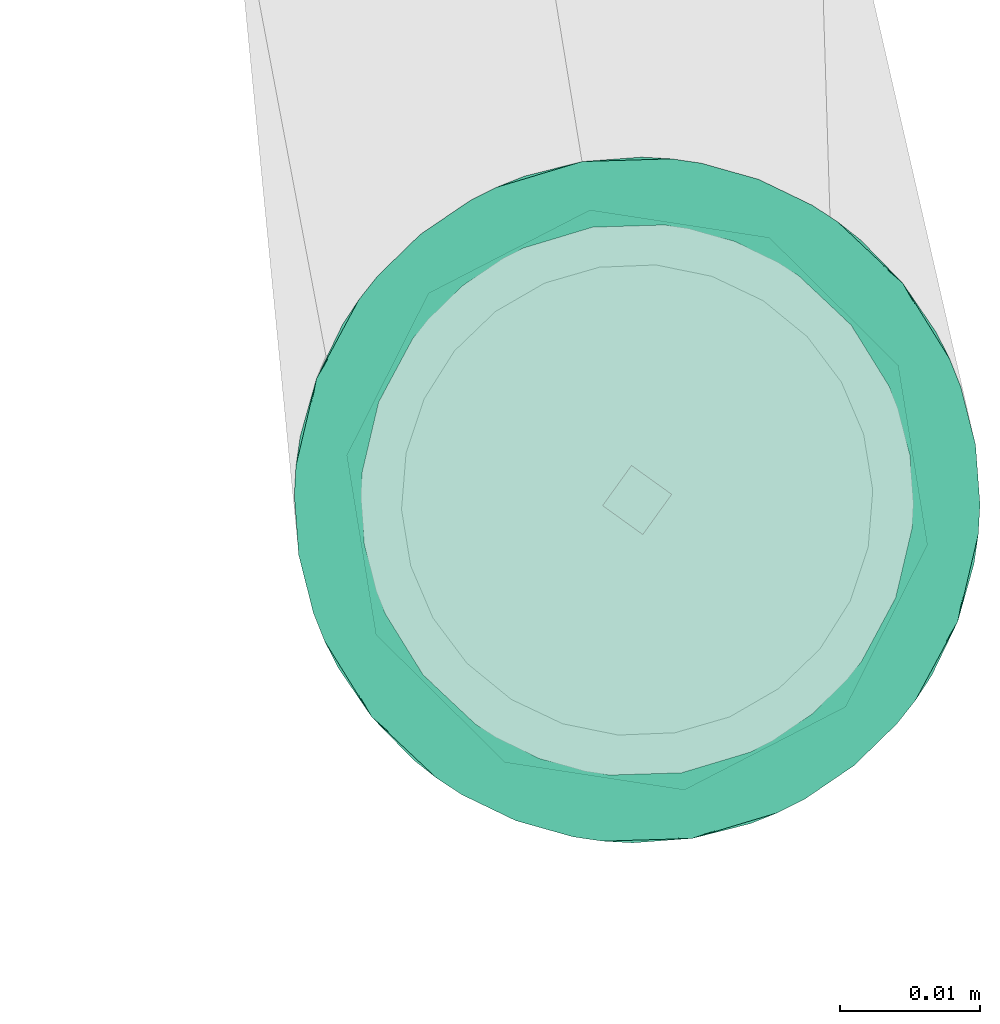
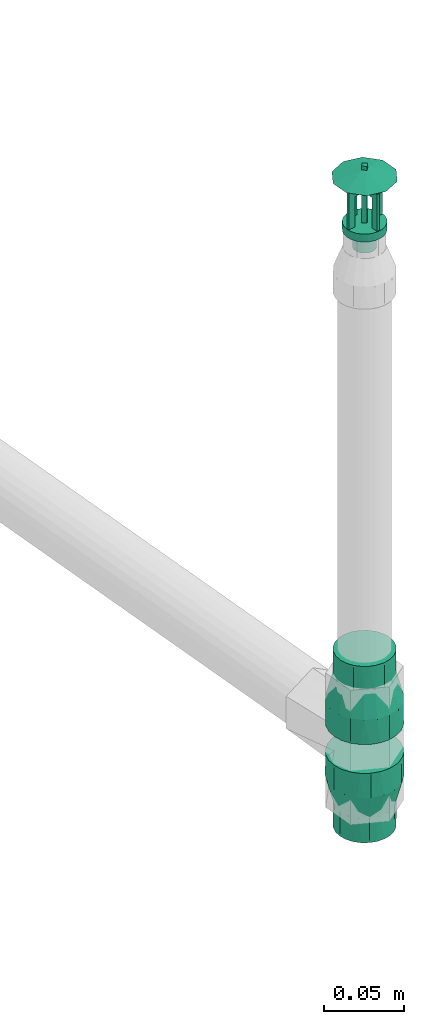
# One storey, part 39 of 56: 2 flow fittings, 1 flow terminal.
"""IFC2X3 building model written with IfcOpenShell, lengths in millimetres."""

from ifc_helpers import new_model, entity, si_unit, converted_unit, derived_unit, direction, frame, origin, origin_with_axes, place, context, subcontext, project, spatial, faceted_brep, source, transform, mapped, material, type_object, element, save


model = new_model("IFC2X3")

# Units and contexts
model_context = context("Model", 3, precision=0.01, world=origin(), true_north=direction((6.12323399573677e-17, 1.0)))
plan_context = context("Plan", 3, precision=1e-05, world=origin_with_axes())
body_context = subcontext(model_context, "Body", "Model", "MODEL_VIEW")
ifc_project = project(units=[converted_unit("PLANEANGLEUNIT", "DEGREE", entity("IfcPositiveLengthMeasure", 0.0174532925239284), si_unit("PLANEANGLEUNIT", "RADIAN"), dimensions=[0, 0, 0, 0, 0, 0, 0]), si_unit("AREAUNIT", "SQUARE_METRE"), si_unit("LENGTHUNIT", "METRE", prefix="MILLI"), si_unit("MASSUNIT", "GRAM", prefix="KILO"), si_unit("POWERUNIT", "WATT"), si_unit("PRESSUREUNIT", "PASCAL", prefix="KILO"), si_unit("FORCEUNIT", "NEWTON", prefix="KILO"), si_unit("ELECTRICVOLTAGEUNIT", "VOLT"), si_unit("ELECTRICCURRENTUNIT", "AMPERE"), si_unit("THERMODYNAMICTEMPERATUREUNIT", "DEGREE_CELSIUS"), si_unit("TIMEUNIT", "SECOND"), si_unit("VOLUMEUNIT", "CUBIC_METRE"), derived_unit("LINEARVELOCITYUNIT", [(si_unit("LENGTHUNIT", "METRE"), 1), (si_unit("TIMEUNIT", "SECOND"), -1)]), derived_unit("VOLUMETRICFLOWRATEUNIT", [(si_unit("VOLUMEUNIT", "CUBIC_METRE"), 1), (si_unit("TIMEUNIT", "SECOND"), -1)]), derived_unit("THERMALTRANSMITTANCEUNIT", [(si_unit("POWERUNIT", "WATT"), 1), (si_unit("THERMODYNAMICTEMPERATUREUNIT", "KELVIN"), -1), (si_unit("AREAUNIT", "SQUARE_METRE"), -1)]), derived_unit("SOUNDPRESSUREUNIT", [(si_unit("PRESSUREUNIT", "PASCAL"), 1)])], contexts=[model_context, plan_context])

# Site, building, storey
site_placement = place(None, frame((-3.09682673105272e-06, 1.93776733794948e-05, 0.0), z_axis=(0.0, 0.0, 1.0), x_axis=(-0.160806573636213, 0.986985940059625, 0.0)))
site = spatial("IfcSite", under=ifc_project, at=site_placement, Name="Default", CompositionType="ELEMENT")
building_placement = place(site_placement, frame((0.0, 0.0, 0.0), z_axis=(0.0, 0.0, 1.0), x_axis=(1.0, -2.77555756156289e-17, 0.0)))
building = spatial("IfcBuilding", under=site, at=building_placement, Name="Bygning (endres i Project Information)", CompositionType="ELEMENT")
storey_placement = place(building_placement, frame((0.0, 0.0, 51360.0000000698), z_axis=(0.0, 0.0, 1.0), x_axis=(1.0, -2.77555756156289e-17, 0.0)))
storey = spatial("IfcBuildingStorey", under=building, at=storey_placement, Name="H01-Nivå D+0,36", CompositionType="ELEMENT", Elevation=51360.0000000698)

# Flow fittings
ifc_material = material(Name="3320.001")
pipe_fitting_type_1 = type_object("IfcPipeFittingType", Name="RS_53_PIF_UN_Reducing-Socket-EN10241_MC_gen:RS_53_PIF_UN_Reducing-Socket-EN10241_MC_gen", PredefinedType="NOTDEFINED", material=ifc_material)
shared_shape_1 = source(origin(), body_context, "Body", "Brep", [
    faceted_brep([(0.0, 0.0, 24.5), (0.0, 6.34106660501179, 23.6651827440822), (0.0, 12.25, 21.2176223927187), (0.0, 17.3241161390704, 17.3241161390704), (0.0, 21.2176223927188, 12.25), (0.0, 23.6651827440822, 6.34106660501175), (0.0, 24.5, 0.0), (0.0, 23.6651827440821, -6.34106660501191), (0.0, 21.2176223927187, -12.2500000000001), (0.0, 17.3241161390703, -17.3241161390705), (0.0, 12.2499999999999, -21.2176223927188), (0.0, 6.34106660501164, -23.6651827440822), (0.0, 0.0, -24.5), (0.0, -6.34106660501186, -23.6651827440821), (0.0, -12.2500000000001, -21.2176223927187), (0.0, -17.3241161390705, -17.3241161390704), (0.0, -21.2176223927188, -12.2499999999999), (0.0, -23.6651827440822, -6.34106660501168), (0.0, -24.5, 0.0), (0.0, -23.6651827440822, 6.34106660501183), (0.0, -21.2176223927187, 12.2500000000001), (0.0, -17.3241161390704, 17.3241161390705), (0.0, -12.25, 21.2176223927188), (0.0, -6.34106660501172, 23.6651827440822), (18.6666666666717, -8.25137606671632, -22.6729794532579), (18.6666666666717, -18.7677686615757, -15.7486780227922), (18.6666666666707, -20.8950763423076, -12.0642027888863), (18.6666666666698, -23.0223840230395, -8.37972755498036), (18.6666666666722, -12.2493529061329, -21.2179959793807), (18.6666666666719, -15.5085607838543, -18.4833370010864), (18.6666666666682, -23.7125607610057, -4.46565710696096), (18.6666666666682, -23.7611920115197, -4.18986377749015), (18.6666666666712, -4.25339922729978, -24.1279629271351), (18.6666666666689, 4.25560674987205, -24.1275736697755), (18.6666666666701, 0.00110376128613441, -24.1277682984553), (18.6666666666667, -24.5, 0.0), (18.6666666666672, 8.25345045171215, -22.6722244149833), (18.6666666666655, 12.2512941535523, -21.2168751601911), (18.6666666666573, 23.0231506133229, -8.37762113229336), (18.6666666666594, 20.8961800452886, -12.062290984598), (18.6666666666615, 18.7692094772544, -15.7469608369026), (18.6666666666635, 15.5102518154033, -18.4819179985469), (18.6666666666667, 24.5, 0.0), (18.6666666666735, 18.7692094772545, 15.7469608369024), (18.666666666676, 20.8961800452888, 12.0622909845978), (18.6666666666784, 23.023150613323, 8.3776211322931), (18.6666666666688, 12.2512941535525, 21.216875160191), (18.6666666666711, 15.5102518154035, 18.4819179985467), (18.6666666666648, 4.25560674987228, 24.1275736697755), (18.6666666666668, 8.25345045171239, 22.6722244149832), (18.6666666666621, -4.25339922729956, 24.1279629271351), (18.6666666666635, 0.00110376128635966, 24.1277682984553), (18.6666666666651, -23.7611920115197, 4.1898637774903), (18.6666666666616, -8.25137606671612, 22.672979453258), (18.666666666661, -12.2493529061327, 21.2179959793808), (18.6666666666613, -15.5085607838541, 18.4833370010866), (18.6666666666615, -18.7677686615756, 15.7486780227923), (18.6666666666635, -23.0223840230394, 8.37972755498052), (18.6666666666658, -23.7125607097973, 4.46565739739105), (18.6666666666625, -20.8950763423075, 12.0642027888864), (37.3333333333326, 19.750000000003, 0.0), (37.3333333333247, 18.5595959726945, -6.75306577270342), (37.3333333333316, 9.87626627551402, -17.1032705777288), (37.3333333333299, 12.5033702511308, -14.8985095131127), (37.3333333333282, 15.1304742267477, -12.6937484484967), (37.3333333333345, 3.43075149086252, -19.4497414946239), (37.333333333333, 6.65350888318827, -18.2765060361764), (37.3333333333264, 16.8450350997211, -9.72340711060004), (37.3333333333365, -3.42859151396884, -19.4501223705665), (37.3333333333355, 0.00107998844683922, -19.4499319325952), (37.3333333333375, -9.87436684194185, -17.1043672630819), (37.333333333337, -6.65147917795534, -18.2772448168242), (37.3333333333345, -19.1544229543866, -3.37756341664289), (37.3333333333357, -18.558845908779, -6.75512683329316), (37.3333333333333, -19.7499999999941, 0.0), (37.3333333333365, -16.8439551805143, -9.72527774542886), (37.3333333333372, -15.1290644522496, -12.6954286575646), (37.3333333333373, -12.5017156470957, -14.8998979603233), (37.3333333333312, -18.5588459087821, 6.755126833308), (37.3333333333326, -19.1544229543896, 3.37756341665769), (37.3333333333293, -15.1290644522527, 12.6954286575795), (37.3333333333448, 18.559595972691, 6.75306577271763), (37.3333333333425, 16.8450350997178, 9.72340711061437), (37.3333333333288, -9.87436684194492, 17.104367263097), (37.3333333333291, -12.5017156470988, 14.8998979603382), (37.3333333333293, -6.65147917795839, 18.2772448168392), (37.3333333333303, -16.8439551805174, 9.72527774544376), (37.333333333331, 0.00107998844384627, 19.4499319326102), (37.3333333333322, 3.43075149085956, 19.4497414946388), (37.3333333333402, 15.1304742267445, 12.6937484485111), (37.333333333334, 6.65350888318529, 18.2765060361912), (37.3333333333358, 9.87626627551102, 17.1032705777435), (37.333333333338, 12.5033702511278, 14.8985095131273), (37.3333333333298, -3.42859151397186, 19.4501223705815), (56.0, 5.11167614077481, -19.0770350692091), (56.0, 9.87500000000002, -17.1040017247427), (56.0, 13.9653589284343, -13.9653589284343), (56.0, 17.1040017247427, -9.87499999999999), (56.0, 19.0770350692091, -5.11167614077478), (56.0, 19.75, 0.0), (56.0, 19.0770350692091, 5.1116761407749), (56.0, 17.1040017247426, 9.8750000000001), (56.0, 13.9653589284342, 13.9653589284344), (56.0, 9.87499999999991, 17.1040017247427), (56.0, 5.11167614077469, 19.0770350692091), (56.0, 0.0, 19.75), (56.0, -5.11167614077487, 19.0770350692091), (56.0, -9.87500000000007, 17.1040017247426), (56.0, -13.9653589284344, 13.9653589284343), (56.0, -17.1040017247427, 9.87499999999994), (56.0, -19.0770350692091, 5.11167614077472), (56.0, -19.75, 0.0), (56.0, -19.0770350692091, -5.11167614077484), (56.0, -17.1040017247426, -9.87500000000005), (56.0, -13.9653589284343, -13.9653589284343), (56.0, -9.87499999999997, -17.1040017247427), (56.0, -5.11167614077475, -19.0770350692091), (56.0, 0.0, -19.75)], [[[0, 1, 2, 3, 4, 5, 6, 7, 8, 9, 10, 11, 12, 13, 14, 15, 16, 17, 18, 19, 20, 21, 22, 23]], [[24, 14, 13]], [[16, 15, 25]], [[16, 25, 26, 27]], [[28, 29, 14]], [[17, 27, 30, 31]], [[31, 18, 17]], [[16, 27, 17]], [[13, 32, 24]], [[25, 15, 29]], [[12, 33, 34, 32]], [[24, 28, 14]], [[14, 29, 15]], [[31, 35, 18]], [[33, 12, 11]], [[36, 10, 37]], [[8, 38, 39, 40]], [[10, 36, 11]], [[8, 7, 38]], [[9, 40, 41]], [[33, 11, 36]], [[8, 40, 9]], [[41, 37, 10]], [[7, 42, 38]], [[7, 6, 42]], [[12, 32, 13]], [[41, 10, 9]], [[42, 6, 5]], [[4, 3, 43]], [[4, 43, 44, 45]], [[46, 47, 2]], [[45, 42, 5]], [[1, 48, 49]], [[43, 3, 47]], [[0, 50, 51, 48]], [[2, 47, 3]], [[50, 0, 23]], [[0, 48, 1]], [[18, 52, 19]], [[53, 22, 54]], [[49, 2, 1]], [[55, 22, 21]], [[35, 52, 18]], [[4, 45, 5]], [[22, 53, 23]], [[21, 56, 55]], [[50, 23, 53]], [[49, 46, 2]], [[20, 56, 21]], [[57, 20, 19]], [[19, 52, 58, 57]], [[55, 54, 22]], [[59, 56, 20, 57]], [[42, 60, 61]], [[41, 62, 37]], [[63, 40, 64]], [[40, 39, 64]], [[33, 36, 65]], [[65, 36, 66]], [[38, 42, 61]], [[64, 39, 67]], [[41, 40, 63]], [[36, 37, 66]], [[62, 41, 63]], [[38, 67, 39]], [[68, 34, 69]], [[68, 32, 34]], [[24, 70, 28]], [[32, 68, 71]], [[72, 35, 31, 30]], [[73, 27, 26]], [[72, 74, 35]], [[26, 75, 73]], [[76, 25, 29]], [[29, 77, 76]], [[70, 24, 71]], [[24, 32, 71]], [[70, 77, 28]], [[76, 75, 25]], [[28, 77, 29]], [[25, 75, 26]], [[73, 30, 27]], [[30, 73, 72]], [[66, 37, 62]], [[69, 34, 33]], [[69, 33, 65]], [[67, 38, 61]], [[78, 58, 79]], [[80, 55, 56]], [[81, 45, 82]], [[78, 59, 57]], [[83, 53, 54]], [[55, 80, 84]], [[79, 58, 52, 35]], [[78, 57, 58]], [[84, 54, 55]], [[85, 50, 53]], [[79, 35, 74]], [[86, 56, 59]], [[84, 83, 54]], [[48, 87, 88]], [[49, 48, 88]], [[59, 78, 86]], [[53, 83, 85]], [[87, 48, 51]], [[81, 60, 42]], [[44, 43, 89]], [[90, 46, 49]], [[47, 46, 91]], [[86, 80, 56]], [[82, 45, 44]], [[49, 88, 90]], [[92, 43, 47]], [[91, 46, 90]], [[51, 50, 93]], [[42, 45, 81]], [[85, 93, 50]], [[44, 89, 82]], [[51, 93, 87]], [[47, 91, 92]], [[89, 43, 92]], [[94, 95, 96, 97, 98, 99, 100, 101, 102, 103, 104, 105, 106, 107, 108, 109, 110, 111, 112, 113, 114, 115, 116, 117]], [[60, 99, 98]], [[97, 96, 64]], [[97, 64, 67, 61]], [[62, 63, 95]], [[61, 60, 98]], [[94, 65, 66]], [[64, 96, 63]], [[117, 68, 69, 65]], [[95, 63, 96]], [[117, 116, 68]], [[77, 70, 115]], [[66, 95, 94]], [[115, 70, 71]], [[113, 112, 73]], [[115, 71, 116]], [[117, 65, 94]], [[97, 61, 98]], [[72, 111, 74]], [[71, 68, 116]], [[113, 76, 114]], [[114, 76, 77]], [[77, 115, 114]], [[113, 73, 75, 76]], [[111, 72, 112]], [[66, 62, 95]], [[72, 73, 112]], [[85, 107, 106]], [[109, 108, 80]], [[109, 80, 86, 78]], [[83, 84, 107]], [[110, 78, 79]], [[79, 111, 110]], [[109, 78, 110]], [[106, 93, 85]], [[80, 108, 84]], [[105, 88, 87, 93]], [[85, 83, 107]], [[107, 84, 108]], [[79, 74, 111]], [[88, 105, 104]], [[90, 103, 91]], [[101, 81, 82, 89]], [[103, 90, 104]], [[101, 100, 81]], [[102, 89, 92]], [[88, 104, 90]], [[101, 89, 102]], [[92, 91, 103]], [[100, 60, 81]], [[100, 99, 60]], [[105, 93, 106]], [[92, 103, 102]]]),
])
flow_fitting_1_placement = place(storey_placement, frame((994236.263254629, -395286.663841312, 3380.93333333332), z_axis=(2.77555756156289e-17, 1.0, 0.0), x_axis=(0.0, 0.0, 1.0)))
element("IfcFlowFitting", 1, at=flow_fitting_1_placement, inside=storey, type_object=pipe_fitting_type_1, material=ifc_material, Name="RS_53_PIF_UN_Reducing-Socket-EN10241_MC_gen:RS_53_PIF_UN_Reducing-Socket-EN10241_MC_gen", ObjectType="RS_53_PIF_UN_Reducing-Socket-EN10241_MC_gen:RS_53_PIF_UN_Reducing-Socket-EN10241_MC_gen", context=body_context, shape_type="MappedRepresentation", body=[
    mapped(shared_shape_1, transform((0.0, 0.0, 0.0), scale=1.0)),
])
pipe_fitting_type_2 = type_object("IfcPipeFittingType", Name="RS_53_PIF_UN_Reducing-Socket-EN10241_MC_gen:RS_53_PIF_UN_Reducing-Socket-EN10241_MC_gen", PredefinedType="NOTDEFINED", material=ifc_material)
shared_shape_2 = source(origin(), body_context, "Body", "Brep", [
    faceted_brep([(0.0, -12.25, 21.2176223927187), (0.0, -6.34106660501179, 23.6651827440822), (0.0, 0.0, 24.5), (0.0, 6.34106660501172, 23.6651827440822), (0.0, 12.25, 21.2176223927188), (0.0, 17.3241161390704, 17.3241161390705), (0.0, 21.2176223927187, 12.2500000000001), (0.0, 23.6651827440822, 6.34106660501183), (0.0, 24.5, 0.0), (0.0, 23.6651827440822, -6.34106660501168), (0.0, 21.2176223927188, -12.2499999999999), (0.0, 17.3241161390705, -17.3241161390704), (0.0, 12.2500000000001, -21.2176223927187), (0.0, 6.34106660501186, -23.6651827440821), (0.0, 0.0, -24.5), (0.0, -6.34106660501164, -23.6651827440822), (0.0, -12.2499999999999, -21.2176223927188), (0.0, -17.3241161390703, -17.3241161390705), (0.0, -21.2176223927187, -12.2500000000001), (0.0, -23.6651827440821, -6.34106660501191), (0.0, -24.5, 0.0), (0.0, -23.6651827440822, 6.34106660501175), (0.0, -21.2176223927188, 12.25), (0.0, -17.3241161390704, 17.3241161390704), (18.6666666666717, 8.25137606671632, -22.6729794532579), (18.6666666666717, 18.7677686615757, -15.7486780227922), (18.6666666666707, 20.8950763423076, -12.0642027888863), (18.6666666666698, 23.0223840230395, -8.37972755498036), (18.6666666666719, 15.5085607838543, -18.4833370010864), (18.6666666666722, 12.2493529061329, -21.2179959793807), (18.6666666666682, 23.7611920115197, -4.18986377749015), (18.6666666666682, 23.7125607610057, -4.46565710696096), (18.6666666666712, 4.25339922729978, -24.1279629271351), (18.6666666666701, -0.00110376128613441, -24.1277682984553), (18.6666666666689, -4.25560674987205, -24.1275736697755), (18.6666666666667, 24.5, 0.0), (18.6666666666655, -12.2512941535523, -21.2168751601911), (18.6666666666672, -8.25345045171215, -22.6722244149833), (18.6666666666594, -20.8961800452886, -12.062290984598), (18.6666666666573, -23.0231506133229, -8.37762113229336), (18.6666666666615, -18.7692094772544, -15.7469608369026), (18.6666666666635, -15.5102518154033, -18.4819179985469), (18.6666666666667, -24.5, 0.0), (18.6666666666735, -18.7692094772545, 15.7469608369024), (18.666666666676, -20.8961800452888, 12.0622909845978), (18.6666666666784, -23.023150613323, 8.3776211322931), (18.6666666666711, -15.5102518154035, 18.4819179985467), (18.6666666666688, -12.2512941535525, 21.216875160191), (18.6666666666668, -8.25345045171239, 22.6722244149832), (18.6666666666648, -4.25560674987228, 24.1275736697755), (18.6666666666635, -0.00110376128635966, 24.1277682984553), (18.6666666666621, 4.25339922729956, 24.1279629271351), (18.6666666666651, 23.7611920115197, 4.1898637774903), (18.666666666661, 12.2493529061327, 21.2179959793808), (18.6666666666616, 8.25137606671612, 22.672979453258), (18.6666666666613, 15.5085607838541, 18.4833370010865), (18.6666666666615, 18.7677686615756, 15.7486780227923), (18.6666666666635, 23.0223840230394, 8.37972755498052), (18.6666666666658, 23.7125607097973, 4.46565739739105), (18.6666666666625, 20.8950763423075, 12.0642027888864), (37.3333333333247, -18.5595959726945, -6.75306577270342), (37.3333333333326, -19.750000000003, 0.0), (37.3333333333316, -9.87626627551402, -17.1032705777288), (37.3333333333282, -15.1304742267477, -12.6937484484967), (37.3333333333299, -12.5033702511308, -14.8985095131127), (37.3333333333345, -3.43075149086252, -19.4497414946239), (37.333333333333, -6.65350888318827, -18.2765060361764), (37.3333333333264, -16.8450350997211, -9.72340711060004), (37.3333333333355, -0.00107998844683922, -19.4499319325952), (37.3333333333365, 3.42859151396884, -19.4501223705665), (37.3333333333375, 9.87436684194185, -17.1043672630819), (37.333333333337, 6.65147917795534, -18.2772448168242), (37.3333333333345, 19.1544229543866, -3.37756341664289), (37.3333333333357, 18.558845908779, -6.75512683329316), (37.3333333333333, 19.7499999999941, 0.0), (37.3333333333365, 16.8439551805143, -9.72527774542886), (37.3333333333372, 15.1290644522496, -12.6954286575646), (37.3333333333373, 12.5017156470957, -14.8998979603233), (37.3333333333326, 19.1544229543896, 3.37756341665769), (37.3333333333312, 18.5588459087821, 6.755126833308), (37.3333333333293, 15.1290644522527, 12.6954286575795), (37.3333333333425, -16.8450350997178, 9.72340711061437), (37.3333333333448, -18.559595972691, 6.75306577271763), (37.3333333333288, 9.87436684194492, 17.104367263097), (37.3333333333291, 12.5017156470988, 14.8998979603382), (37.3333333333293, 6.65147917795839, 18.2772448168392), (37.3333333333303, 16.8439551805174, 9.72527774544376), (37.3333333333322, -3.43075149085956, 19.4497414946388), (37.333333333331, -0.00107998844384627, 19.4499319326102), (37.3333333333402, -15.1304742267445, 12.6937484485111), (37.333333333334, -6.65350888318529, 18.2765060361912), (37.3333333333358, -9.87626627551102, 17.1032705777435), (37.333333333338, -12.5033702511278, 14.8985095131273), (37.3333333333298, 3.42859151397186, 19.4501223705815), (56.0, 0.0, -19.75), (56.0, 5.11167614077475, -19.0770350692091), (56.0, 9.87499999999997, -17.1040017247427), (56.0, 13.9653589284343, -13.9653589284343), (56.0, 17.1040017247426, -9.87500000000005), (56.0, 19.0770350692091, -5.11167614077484), (56.0, 19.75, 0.0), (56.0, 19.0770350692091, 5.11167614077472), (56.0, 17.1040017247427, 9.87499999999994), (56.0, 13.9653589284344, 13.9653589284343), (56.0, 9.87500000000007, 17.1040017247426), (56.0, 5.11167614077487, 19.0770350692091), (56.0, 0.0, 19.75), (56.0, -5.11167614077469, 19.0770350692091), (56.0, -9.87499999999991, 17.1040017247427), (56.0, -13.9653589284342, 13.9653589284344), (56.0, -17.1040017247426, 9.8750000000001), (56.0, -19.0770350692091, 5.1116761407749), (56.0, -19.75, 0.0), (56.0, -19.0770350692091, -5.11167614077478), (56.0, -17.1040017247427, -9.87499999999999), (56.0, -13.9653589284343, -13.9653589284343), (56.0, -9.87500000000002, -17.1040017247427), (56.0, -5.11167614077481, -19.0770350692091)], [[[0, 1, 2, 3, 4, 5, 6, 7, 8, 9, 10, 11, 12, 13, 14, 15, 16, 17, 18, 19, 20, 21, 22, 23]], [[13, 12, 24]], [[25, 11, 10]], [[26, 25, 10, 27]], [[12, 28, 29]], [[9, 30, 31, 27]], [[9, 8, 30]], [[9, 27, 10]], [[24, 32, 13]], [[28, 11, 25]], [[33, 34, 14, 32]], [[12, 29, 24]], [[11, 28, 12]], [[8, 35, 30]], [[15, 14, 34]], [[36, 16, 37]], [[38, 39, 18, 40]], [[15, 37, 16]], [[39, 19, 18]], [[41, 40, 17]], [[37, 15, 34]], [[17, 40, 18]], [[16, 36, 41]], [[39, 42, 19]], [[42, 20, 19]], [[13, 32, 14]], [[17, 16, 41]], [[21, 20, 42]], [[43, 23, 22]], [[44, 43, 22, 45]], [[0, 46, 47]], [[21, 42, 45]], [[48, 49, 1]], [[46, 23, 43]], [[50, 51, 2, 49]], [[23, 46, 0]], [[3, 2, 51]], [[1, 49, 2]], [[7, 52, 8]], [[53, 4, 54]], [[1, 0, 48]], [[5, 4, 55]], [[8, 52, 35]], [[21, 45, 22]], [[3, 54, 4]], [[55, 56, 5]], [[54, 3, 51]], [[0, 47, 48]], [[5, 56, 6]], [[7, 6, 57]], [[7, 57, 58, 52]], [[4, 53, 55]], [[6, 56, 59, 57]], [[60, 61, 42]], [[36, 62, 41]], [[63, 40, 64]], [[63, 38, 40]], [[65, 37, 34]], [[66, 37, 65]], [[60, 42, 39]], [[67, 38, 63]], [[64, 40, 41]], [[66, 36, 37]], [[64, 41, 62]], [[38, 67, 39]], [[68, 33, 69]], [[33, 32, 69]], [[29, 70, 24]], [[71, 69, 32]], [[72, 31, 30, 35]], [[26, 27, 73]], [[35, 74, 72]], [[73, 75, 26]], [[28, 25, 76]], [[76, 77, 28]], [[71, 24, 70]], [[71, 32, 24]], [[29, 77, 70]], [[25, 75, 76]], [[28, 77, 29]], [[26, 75, 25]], [[27, 31, 73]], [[72, 73, 31]], [[62, 36, 66]], [[34, 33, 68]], [[65, 34, 68]], [[60, 39, 67]], [[78, 58, 79]], [[56, 55, 80]], [[81, 45, 82]], [[57, 59, 79]], [[53, 54, 83]], [[84, 80, 55]], [[78, 35, 52, 58]], [[58, 57, 79]], [[55, 53, 84]], [[54, 51, 85]], [[74, 35, 78]], [[59, 56, 86]], [[53, 83, 84]], [[87, 88, 49]], [[87, 49, 48]], [[86, 79, 59]], [[85, 83, 54]], [[50, 49, 88]], [[42, 61, 82]], [[89, 43, 44]], [[48, 47, 90]], [[91, 47, 46]], [[56, 80, 86]], [[44, 45, 81]], [[90, 87, 48]], [[46, 43, 92]], [[90, 47, 91]], [[93, 51, 50]], [[82, 45, 42]], [[51, 93, 85]], [[81, 89, 44]], [[88, 93, 50]], [[92, 91, 46]], [[92, 43, 89]], [[94, 95, 96, 97, 98, 99, 100, 101, 102, 103, 104, 105, 106, 107, 108, 109, 110, 111, 112, 113, 114, 115, 116, 117]], [[113, 112, 61]], [[63, 115, 114]], [[67, 63, 114, 60]], [[116, 64, 62]], [[113, 61, 60]], [[66, 65, 117]], [[64, 115, 63]], [[68, 69, 94, 65]], [[115, 64, 116]], [[69, 95, 94]], [[96, 70, 77]], [[117, 116, 66]], [[71, 70, 96]], [[73, 99, 98]], [[95, 71, 96]], [[117, 65, 94]], [[113, 60, 114]], [[74, 100, 72]], [[95, 69, 71]], [[97, 76, 98]], [[77, 76, 97]], [[97, 96, 77]], [[75, 73, 98, 76]], [[99, 72, 100]], [[116, 62, 66]], [[99, 73, 72]], [[105, 104, 85]], [[80, 103, 102]], [[86, 80, 102, 79]], [[104, 84, 83]], [[78, 79, 101]], [[101, 100, 78]], [[101, 79, 102]], [[85, 93, 105]], [[84, 103, 80]], [[88, 87, 106, 93]], [[104, 83, 85]], [[103, 84, 104]], [[100, 74, 78]], [[107, 106, 87]], [[91, 108, 90]], [[81, 82, 110, 89]], [[107, 90, 108]], [[82, 111, 110]], [[92, 89, 109]], [[90, 107, 87]], [[109, 89, 110]], [[108, 91, 92]], [[82, 61, 111]], [[61, 112, 111]], [[105, 93, 106]], [[109, 108, 92]]]),
])
flow_fitting_2_placement = place(storey_placement, frame((994236.263254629, -395286.663841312, 3359.06666666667), z_axis=(1.0, -2.77555756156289e-17, 0.0), x_axis=(0.0, 0.0, -1.0)))
element("IfcFlowFitting", 2, at=flow_fitting_2_placement, inside=storey, type_object=pipe_fitting_type_2, material=ifc_material, Name="RS_53_PIF_UN_Reducing-Socket-EN10241_MC_gen:RS_53_PIF_UN_Reducing-Socket-EN10241_MC_gen", ObjectType="RS_53_PIF_UN_Reducing-Socket-EN10241_MC_gen:RS_53_PIF_UN_Reducing-Socket-EN10241_MC_gen", context=body_context, shape_type="MappedRepresentation", body=[
    mapped(shared_shape_2, transform((0.0, 0.0, 0.0), scale=1.0)),
])

# Flow terminal
fire_suppression_terminal_type = type_object("IfcFireSuppressionTerminalType", Name="SU-15-K80-68DGR-STD:SU-15-K80-68DGR-STD", PredefinedType="NOTDEFINED", material=ifc_material)
shared_shape_3 = source(origin(), body_context, "Body", "Brep", [
    faceted_brep([(-2.5, 0.0, 62.0), (0.0, -2.5, 62.0), (2.5, 0.0, 62.0), (0.0, 2.5, 62.0), (-2.5, 0.0, 59.0), (0.0, 2.5, 59.0), (2.5, 0.0, 59.0), (0.0, -2.5, 59.0)], [[[0, 1, 2, 3]], [[4, 5, 6, 7]], [[0, 4, 7, 1]], [[7, 6, 2, 1]], [[2, 6, 5, 3]], [[5, 4, 0, 3]]]),
    faceted_brep([(1.0, -13.5, 47.0), (1.0, -13.5, 19.0), (1.0, -8.5, 19.0), (1.0, -8.5, 42.0), (1.0, 8.5, 42.0), (1.0, 8.5, 19.0), (1.0, 13.5, 19.0), (1.0, 13.5, 47.0), (-1.0, -13.5, 47.0), (-1.0, 13.5, 47.0), (-1.0, 13.5, 19.0), (-1.0, 8.5, 19.0), (-1.0, 8.5, 42.0), (-1.0, -8.5, 42.0), (-1.0, -8.5, 19.0), (-1.0, -13.5, 19.0)], [[[0, 1, 2, 3, 4, 5, 6, 7]], [[8, 9, 10, 11, 12, 13, 14, 15]], [[1, 0, 8, 15]], [[2, 1, 15, 14]], [[3, 2, 14, 13]], [[4, 3, 13, 12]], [[5, 4, 12, 11]], [[6, 5, 11, 10]], [[7, 6, 10, 9]], [[0, 7, 9, 8]]]),
    faceted_brep([(-13.5, 1.0, 47.0), (13.5, 1.0, 47.0), (13.5, 1.0, 19.0), (8.5, 1.0, 19.0), (8.5, 1.0, 42.0), (-8.5, 1.0, 42.0), (-8.5, 1.0, 19.0), (-13.5, 1.0, 19.0), (-13.5, -1.0, 47.0), (-13.5, -1.0, 19.0), (-8.5, -1.0, 19.0), (-8.5, -1.0, 42.0), (8.5, -1.0, 42.0), (8.5, -1.0, 19.0), (13.5, -1.0, 19.0), (13.5, -1.0, 47.0)], [[[0, 1, 2, 3, 4, 5, 6, 7]], [[8, 9, 10, 11, 12, 13, 14, 15]], [[1, 0, 8, 15]], [[2, 1, 15, 14]], [[3, 2, 14, 13]], [[4, 3, 13, 12]], [[5, 4, 12, 11]], [[6, 5, 11, 10]], [[7, 6, 10, 9]], [[0, 7, 9, 8]]]),
    faceted_brep([(0.0, 2.5, 59.0), (-2.5, 0.0, 59.0), (0.0, -2.5, 59.0), (2.5, 0.0, 59.0), (6.4893568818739, 19.9721868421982, 53.0), (16.9893568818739, 12.3434902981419, 53.0), (21.0, 0.0, 53.0), (16.989356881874, -12.3434902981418, 53.0), (6.48935688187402, -19.9721868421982, 53.0), (-6.48935688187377, -19.9721868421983, 53.0), (-16.9893568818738, -12.343490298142, 53.0), (-21.0, 0.0, 53.0), (-16.9893568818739, 12.3434902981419, 53.0), (-6.48935688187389, 19.9721868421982, 53.0)], [[[0, 1, 2, 3]], [[4, 5, 6, 7, 8, 9, 10, 11, 12, 13]], [[6, 3, 7]], [[2, 8, 7]], [[7, 3, 2]], [[2, 1, 10]], [[2, 10, 9]], [[10, 1, 11]], [[2, 9, 8]], [[11, 1, 12]], [[0, 13, 12]], [[12, 1, 0]], [[0, 3, 5]], [[0, 5, 4]], [[5, 3, 6]], [[0, 4, 13]]]),
    faceted_brep([(-2.5, 0.0, 53.0), (0.0, -2.5, 53.0), (2.5, 0.0, 53.0), (0.0, 2.5, 53.0), (-2.5, 0.0, 19.0), (0.0, 2.5, 19.0), (2.5, 0.0, 19.0), (0.0, -2.5, 19.0)], [[[0, 1, 2, 3]], [[4, 5, 6, 7]], [[0, 4, 7, 1]], [[7, 6, 2, 1]], [[2, 6, 5, 3]], [[5, 4, 0, 3]]]),
    faceted_brep([(3.62346663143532, -13.5229615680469, 19.0), (7.0, -12.1243556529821, 19.0), (9.89949493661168, -9.89949493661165, 19.0), (12.1243556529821, -7.0, 19.0), (13.522961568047, -3.62346663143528, 19.0), (14.0, 0.0, 19.0), (13.522961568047, 3.62346663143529, 19.0), (12.1243556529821, 7.0, 19.0), (9.89949493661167, 9.89949493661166, 19.0), (7.0, 12.1243556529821, 19.0), (3.62346663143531, 13.522961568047, 19.0), (0.0, 14.0, 19.0), (-3.62346663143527, 13.522961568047, 19.0), (-7.0, 12.1243556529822, 19.0), (-9.89949493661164, 9.89949493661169, 19.0), (-12.1243556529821, 7.0, 19.0), (-13.5229615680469, 3.62346663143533, 19.0), (-14.0, 0.0, 19.0), (-13.5229615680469, -3.62346663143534, 19.0), (-12.1243556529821, -7.0, 19.0), (-9.89949493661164, -9.89949493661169, 19.0), (-7.0, -12.1243556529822, 19.0), (-3.62346663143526, -13.522961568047, 19.0), (0.0, -14.0, 19.0), (9.89949493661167, 9.89949493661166, 13.0), (12.1243556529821, 7.0, 13.0), (13.522961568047, 3.62346663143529, 13.0), (14.0, 0.0, 13.0), (13.522961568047, -3.62346663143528, 13.0), (12.1243556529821, -7.0, 13.0), (9.89949493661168, -9.89949493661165, 13.0), (7.0, -12.1243556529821, 13.0), (3.62346663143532, -13.5229615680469, 13.0), (0.0, -14.0, 13.0), (-3.62346663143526, -13.522961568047, 13.0), (-7.0, -12.1243556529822, 13.0), (-9.89949493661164, -9.89949493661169, 13.0), (-12.1243556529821, -7.0, 13.0), (-13.5229615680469, -3.62346663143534, 13.0), (-14.0, 0.0, 13.0), (-13.5229615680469, 3.62346663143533, 13.0), (-12.1243556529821, 7.0, 13.0), (-9.89949493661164, 9.89949493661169, 13.0), (-7.0, 12.1243556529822, 13.0), (-3.62346663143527, 13.522961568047, 13.0), (0.0, 14.0, 13.0), (3.62346663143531, 13.522961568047, 13.0), (7.0, 12.1243556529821, 13.0)], [[[0, 1, 2, 3, 4, 5, 6, 7, 8, 9, 10, 11, 12, 13, 14, 15, 16, 17, 18, 19, 20, 21, 22, 23]], [[24, 25, 26, 27, 28, 29, 30, 31, 32, 33, 34, 35, 36, 37, 38, 39, 40, 41, 42, 43, 44, 45, 46, 47]], [[38, 18, 17, 39]], [[37, 19, 18, 38]], [[21, 20, 36, 35]], [[37, 36, 20, 19]], [[22, 21, 35, 34]], [[23, 22, 34, 33]], [[32, 0, 23, 33]], [[31, 1, 0, 32]], [[3, 2, 30, 29]], [[31, 30, 2, 1]], [[4, 3, 29, 28]], [[5, 4, 28, 27]], [[26, 6, 5, 27]], [[25, 7, 6, 26]], [[9, 8, 24, 47]], [[25, 24, 8, 7]], [[10, 9, 47, 46]], [[11, 10, 46, 45]], [[44, 12, 11, 45]], [[43, 13, 12, 44]], [[15, 14, 42, 41]], [[43, 42, 14, 13]], [[16, 15, 41, 40]], [[17, 16, 40, 39]]]),
    faceted_brep([(1.94114283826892, -7.24444369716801, 13.0), (3.75000000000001, -6.49519052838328, 13.0), (5.30330085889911, -5.3033008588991, 13.0), (6.49519052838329, -3.75, 13.0), (7.24444369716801, -1.9411428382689, 13.0), (7.5, 0.0, 13.0), (7.24444369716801, 1.9411428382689, 13.0), (6.49519052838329, 3.75, 13.0), (5.30330085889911, 5.3033008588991, 13.0), (3.75000000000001, 6.49519052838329, 13.0), (1.94114283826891, 7.24444369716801, 13.0), (0.0, 7.5, 13.0), (-1.94114283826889, 7.24444369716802, 13.0), (-3.74999999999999, 6.4951905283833, 13.0), (-5.3033008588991, 5.30330085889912, 13.0), (-6.49519052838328, 3.75000000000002, 13.0), (-7.24444369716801, 1.94114283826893, 13.0), (-7.5, 0.0, 13.0), (-7.244443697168, -1.94114283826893, 13.0), (-6.49519052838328, -3.75000000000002, 13.0), (-5.30330085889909, -5.30330085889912, 13.0), (-3.74999999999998, -6.4951905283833, 13.0), (-1.94114283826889, -7.24444369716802, 13.0), (0.0, -7.5, 13.0), (5.30330085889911, 5.3033008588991, 0.0), (6.49519052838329, 3.75, 0.0), (7.24444369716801, 1.9411428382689, 0.0), (7.5, 0.0, 0.0), (7.24444369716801, -1.9411428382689, 0.0), (6.49519052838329, -3.75, 0.0), (5.30330085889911, -5.3033008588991, 0.0), (3.75000000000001, -6.49519052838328, 0.0), (1.94114283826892, -7.24444369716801, 0.0), (0.0, -7.5, 0.0), (-1.94114283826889, -7.24444369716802, 0.0), (-3.74999999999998, -6.4951905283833, 0.0), (-5.30330085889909, -5.30330085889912, 0.0), (-6.49519052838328, -3.75000000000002, 0.0), (-7.244443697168, -1.94114283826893, 0.0), (-7.5, 0.0, 0.0), (-7.24444369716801, 1.94114283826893, 0.0), (-6.49519052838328, 3.75000000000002, 0.0), (-5.3033008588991, 5.30330085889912, 0.0), (-3.74999999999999, 6.4951905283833, 0.0), (-1.94114283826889, 7.24444369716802, 0.0), (0.0, 7.5, 0.0), (1.94114283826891, 7.24444369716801, 0.0), (3.75000000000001, 6.49519052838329, 0.0)], [[[0, 1, 2, 3, 4, 5, 6, 7, 8, 9, 10, 11, 12, 13, 14, 15, 16, 17, 18, 19, 20, 21, 22, 23]], [[24, 25, 26, 27, 28, 29, 30, 31, 32, 33, 34, 35, 36, 37, 38, 39, 40, 41, 42, 43, 44, 45, 46, 47]], [[38, 18, 17, 39]], [[37, 19, 18, 38]], [[21, 20, 36, 35]], [[37, 36, 20, 19]], [[22, 21, 35, 34]], [[23, 22, 34, 33]], [[32, 0, 23, 33]], [[31, 1, 0, 32]], [[3, 2, 30, 29]], [[31, 30, 2, 1]], [[4, 3, 29, 28]], [[5, 4, 28, 27]], [[26, 6, 5, 27]], [[25, 7, 6, 26]], [[9, 8, 24, 47]], [[25, 24, 8, 7]], [[10, 9, 47, 46]], [[11, 10, 46, 45]], [[44, 12, 11, 45]], [[43, 13, 12, 44]], [[15, 14, 42, 41]], [[43, 42, 14, 13]], [[16, 15, 41, 40]], [[17, 16, 40, 39]]]),
])
flow_terminal_placement = place(storey_placement, frame((994236.263254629, -395286.663841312, 3741.99999993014), z_axis=(0.0, 0.0, 1.0), x_axis=(-1.0, 2.77555756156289e-17, 0.0)))
element("IfcFlowTerminal", 3, at=flow_terminal_placement, inside=storey, type_object=fire_suppression_terminal_type, material=ifc_material, Name="SU-15-K80-68DGR-STD:SU-15-K80-68DGR-STD", ObjectType="SU-15-K80-68DGR-STD:SU-15-K80-68DGR-STD", context=body_context, shape_type="MappedRepresentation", body=[
    mapped(shared_shape_3, transform((0.0, 0.0, 0.0), scale=1.0)),
])

save(model, "model.ifc")
